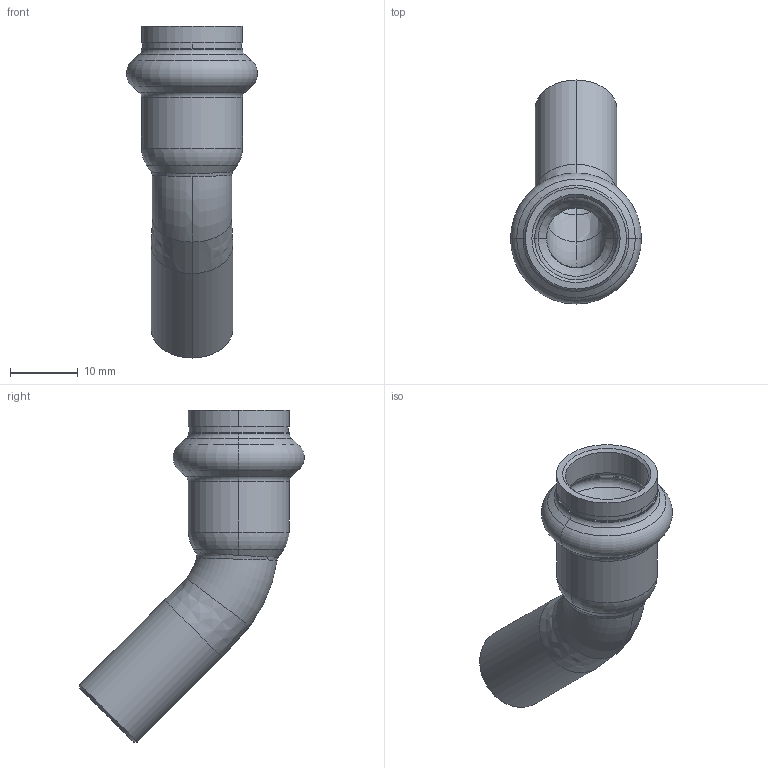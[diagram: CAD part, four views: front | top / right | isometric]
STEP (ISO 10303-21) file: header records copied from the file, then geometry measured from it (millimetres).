
FILE_DESCRIPTION (( 'STEP AP203' ), '1' );
FILE_NAME ('SP5040 Ø12.STEP', '2017-04-24T08:08:15', ( '' ), ( '' ), 'SwSTEP 2.0', 'SolidWorks 2016', '' );
FILE_SCHEMA (( 'CONFIG_CONTROL_DESIGN' ));
Length unit declared in the file: millimetre
Products named in the file (1): SP5040 ﾘ12
Bounding box: 19.3 x 33.06 x 48.91 mm (x, y, z)
Volume: 2926.9 mm3; surface area: 4219.8 mm2
Topology: 1 solids, 1 shells, 63 faces, 133 edges, 74 vertices
Faces by surface type: torus 20, cone 16, cylinder 16, bspline 6, plane 5
Entity records: 2446 total; most frequent: CARTESIAN_POINT 1018, DIRECTION 314, ORIENTED_EDGE 266, AXIS2_PLACEMENT_3D 141, EDGE_CURVE 133, CIRCLE 83, VERTEX_POINT 74, EDGE_LOOP 67
